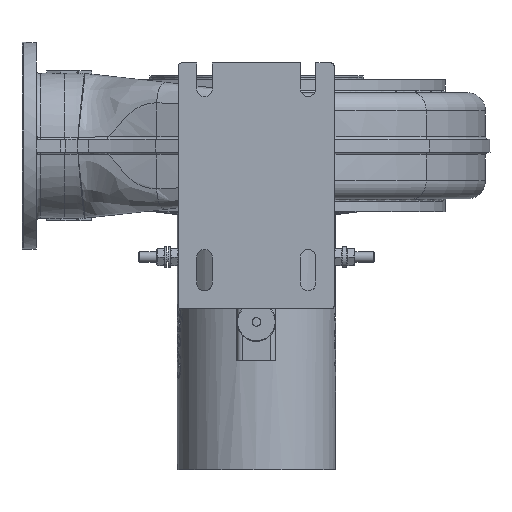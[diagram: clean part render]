
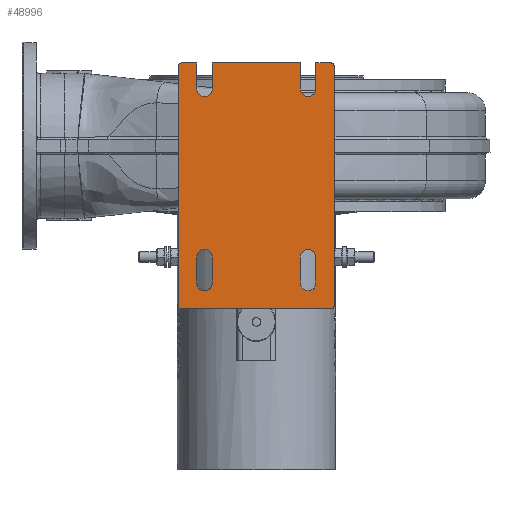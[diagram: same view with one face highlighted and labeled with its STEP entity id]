
A CAD part, front view. The second image highlights one B-rep face of the part: STEP entity #48996.
In plain terms, the highlighted planar face has unit normal (0, -1, 0).
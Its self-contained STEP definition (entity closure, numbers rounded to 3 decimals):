
#393=FACE_BOUND('',#15016,.T.);
#394=FACE_BOUND('',#15017,.T.);
#1204=PLANE('',#51297);
#3243=LINE('',#84286,#7401);
#3248=LINE('',#84300,#7406);
#3253=LINE('',#84318,#7411);
#3257=LINE('',#84329,#7415);
#3262=LINE('',#84347,#7420);
#3267=LINE('',#84363,#7425);
#3273=LINE('',#84378,#7431);
#3293=LINE('',#84479,#7451);
#3295=LINE('',#84484,#7453);
#3302=LINE('',#84514,#7460);
#3314=LINE('',#84562,#7472);
#3315=LINE('',#84568,#7473);
#3316=LINE('',#84571,#7474);
#3317=LINE('',#84574,#7475);
#7401=VECTOR('',#55575,10.);
#7406=VECTOR('',#55588,10.);
#7411=VECTOR('',#55607,10.);
#7415=VECTOR('',#55619,10.);
#7420=VECTOR('',#55634,10.);
#7425=VECTOR('',#55649,10.);
#7431=VECTOR('',#55661,10.);
#7451=VECTOR('',#55723,10.);
#7453=VECTOR('',#55729,10.);
#7460=VECTOR('',#55756,10.);
#7472=VECTOR('',#55786,10.);
#7473=VECTOR('',#55791,10.);
#7474=VECTOR('',#55794,10.);
#7475=VECTOR('',#55797,10.);
#12325=FACE_OUTER_BOUND('',#15015,.T.);
#15015=EDGE_LOOP('',(#36093,#36094,#36095,#36096,#36097,#36098,#36099,#36100,
#36101,#36102,#36103,#36104,#36105,#36106,#36107,#36108));
#15016=EDGE_LOOP('',(#36109,#36110,#36111,#36112));
#15017=EDGE_LOOP('',(#36113,#36114,#36115,#36116));
#17553=CIRCLE('',#51228,6.);
#17554=CIRCLE('',#51232,6.);
#17555=CIRCLE('',#51235,6.);
#17556=CIRCLE('',#51239,6.);
#17557=CIRCLE('',#51244,6.);
#17559=CIRCLE('',#51249,6.);
#17571=CIRCLE('',#51281,2.);
#17575=CIRCLE('',#51298,2.);
#17576=CIRCLE('',#51299,2.);
#17577=CIRCLE('',#51300,2.);
#21450=VERTEX_POINT('',#84284);
#21451=VERTEX_POINT('',#84285);
#21454=VERTEX_POINT('',#84293);
#21456=VERTEX_POINT('',#84299);
#21458=VERTEX_POINT('',#84308);
#21459=VERTEX_POINT('',#84309);
#21462=VERTEX_POINT('',#84317);
#21464=VERTEX_POINT('',#84323);
#21468=VERTEX_POINT('',#84335);
#21469=VERTEX_POINT('',#84337);
#21472=VERTEX_POINT('',#84344);
#21473=VERTEX_POINT('',#84346);
#21476=VERTEX_POINT('',#84354);
#21479=VERTEX_POINT('',#84362);
#21485=VERTEX_POINT('',#84376);
#21512=VERTEX_POINT('',#84476);
#21513=VERTEX_POINT('',#84478);
#21516=VERTEX_POINT('',#84491);
#21530=VERTEX_POINT('',#84559);
#21531=VERTEX_POINT('',#84564);
#21532=VERTEX_POINT('',#84565);
#21533=VERTEX_POINT('',#84567);
#21534=VERTEX_POINT('',#84570);
#21535=VERTEX_POINT('',#84572);
#26744=EDGE_CURVE('',#21450,#21451,#3243,.T.);
#26748=EDGE_CURVE('',#21454,#21450,#17553,.T.);
#26751=EDGE_CURVE('',#21456,#21454,#3248,.T.);
#26754=EDGE_CURVE('',#21451,#21456,#17554,.T.);
#26756=EDGE_CURVE('',#21458,#21459,#17555,.T.);
#26760=EDGE_CURVE('',#21462,#21458,#3253,.T.);
#26763=EDGE_CURVE('',#21464,#21462,#17556,.T.);
#26766=EDGE_CURVE('',#21459,#21464,#3257,.T.);
#26770=EDGE_CURVE('',#21468,#21469,#17557,.T.);
#26774=EDGE_CURVE('',#21472,#21473,#3262,.T.);
#26778=EDGE_CURVE('',#21473,#21476,#17559,.T.);
#26782=EDGE_CURVE('',#21476,#21479,#3267,.T.);
#26790=EDGE_CURVE('',#21485,#21472,#3273,.T.);
#26824=EDGE_CURVE('',#21512,#21513,#3293,.T.);
#26827=EDGE_CURVE('',#21513,#21468,#3295,.T.);
#26831=EDGE_CURVE('',#21516,#21512,#17571,.T.);
#26840=EDGE_CURVE('',#21469,#21485,#3302,.T.);
#26857=EDGE_CURVE('',#21479,#21530,#3314,.T.);
#26858=EDGE_CURVE('',#21531,#21532,#17575,.T.);
#26859=EDGE_CURVE('',#21533,#21531,#3315,.T.);
#26860=EDGE_CURVE('',#21530,#21533,#17576,.T.);
#26861=EDGE_CURVE('',#21534,#21516,#3316,.T.);
#26862=EDGE_CURVE('',#21535,#21534,#17577,.T.);
#26863=EDGE_CURVE('',#21532,#21535,#3317,.T.);
#36093=ORIENTED_EDGE('',*,*,#26858,.F.);
#36094=ORIENTED_EDGE('',*,*,#26859,.F.);
#36095=ORIENTED_EDGE('',*,*,#26860,.F.);
#36096=ORIENTED_EDGE('',*,*,#26857,.F.);
#36097=ORIENTED_EDGE('',*,*,#26782,.F.);
#36098=ORIENTED_EDGE('',*,*,#26778,.F.);
#36099=ORIENTED_EDGE('',*,*,#26774,.F.);
#36100=ORIENTED_EDGE('',*,*,#26790,.F.);
#36101=ORIENTED_EDGE('',*,*,#26840,.F.);
#36102=ORIENTED_EDGE('',*,*,#26770,.F.);
#36103=ORIENTED_EDGE('',*,*,#26827,.F.);
#36104=ORIENTED_EDGE('',*,*,#26824,.F.);
#36105=ORIENTED_EDGE('',*,*,#26831,.F.);
#36106=ORIENTED_EDGE('',*,*,#26861,.F.);
#36107=ORIENTED_EDGE('',*,*,#26862,.F.);
#36108=ORIENTED_EDGE('',*,*,#26863,.F.);
#36109=ORIENTED_EDGE('',*,*,#26756,.T.);
#36110=ORIENTED_EDGE('',*,*,#26766,.T.);
#36111=ORIENTED_EDGE('',*,*,#26763,.T.);
#36112=ORIENTED_EDGE('',*,*,#26760,.T.);
#36113=ORIENTED_EDGE('',*,*,#26744,.T.);
#36114=ORIENTED_EDGE('',*,*,#26754,.T.);
#36115=ORIENTED_EDGE('',*,*,#26751,.T.);
#36116=ORIENTED_EDGE('',*,*,#26748,.T.);
#48996=ADVANCED_FACE('',(#12325,#393,#394),#1204,.F.);
#51228=AXIS2_PLACEMENT_3D('',#84294,#55581,#55582);
#51232=AXIS2_PLACEMENT_3D('',#84305,#55593,#55594);
#51235=AXIS2_PLACEMENT_3D('',#84310,#55599,#55600);
#51239=AXIS2_PLACEMENT_3D('',#84324,#55612,#55613);
#51244=AXIS2_PLACEMENT_3D('',#84338,#55626,#55627);
#51249=AXIS2_PLACEMENT_3D('',#84355,#55641,#55642);
#51281=AXIS2_PLACEMENT_3D('',#84492,#55738,#55739);
#51297=AXIS2_PLACEMENT_3D('',#84563,#55787,#55788);
#51298=AXIS2_PLACEMENT_3D('',#84566,#55789,#55790);
#51299=AXIS2_PLACEMENT_3D('',#84569,#55792,#55793);
#51300=AXIS2_PLACEMENT_3D('',#84573,#55795,#55796);
#55575=DIRECTION('',(0.,0.,-1.));
#55581=DIRECTION('center_axis',(0.,1.,0.));
#55582=DIRECTION('ref_axis',(-1.,0.,0.));
#55588=DIRECTION('',(0.,0.,1.));
#55593=DIRECTION('center_axis',(0.,1.,0.));
#55594=DIRECTION('ref_axis',(1.,0.,0.));
#55599=DIRECTION('center_axis',(0.,1.,0.));
#55600=DIRECTION('ref_axis',(1.,0.,0.));
#55607=DIRECTION('',(0.,0.,-1.));
#55612=DIRECTION('center_axis',(0.,1.,0.));
#55613=DIRECTION('ref_axis',(-1.,0.,0.));
#55619=DIRECTION('',(0.,0.,1.));
#55626=DIRECTION('center_axis',(0.,-1.,0.));
#55627=DIRECTION('ref_axis',(1.,0.,0.));
#55634=DIRECTION('',(0.,0.,-1.));
#55641=DIRECTION('center_axis',(0.,-1.,0.));
#55642=DIRECTION('ref_axis',(1.,0.,0.));
#55649=DIRECTION('',(0.,0.,1.));
#55661=DIRECTION('',(1.,0.,0.));
#55723=DIRECTION('',(1.,0.,0.));
#55729=DIRECTION('',(0.,0.,-1.));
#55738=DIRECTION('center_axis',(0.,1.,0.));
#55739=DIRECTION('ref_axis',(-0.707,0.,0.707));
#55756=DIRECTION('',(0.,0.,1.));
#55786=DIRECTION('',(1.,0.,0.));
#55787=DIRECTION('center_axis',(0.,1.,0.));
#55788=DIRECTION('ref_axis',(0.,0.,1.));
#55789=DIRECTION('center_axis',(0.,1.,0.));
#55790=DIRECTION('ref_axis',(0.707,0.,-0.707));
#55791=DIRECTION('',(0.,0.,-1.));
#55792=DIRECTION('center_axis',(0.,1.,0.));
#55793=DIRECTION('ref_axis',(0.707,0.,0.707));
#55794=DIRECTION('',(0.,0.,1.));
#55795=DIRECTION('center_axis',(0.,1.,0.));
#55796=DIRECTION('ref_axis',(-0.707,0.,-0.707));
#55797=DIRECTION('',(-1.,0.,0.));
#84284=CARTESIAN_POINT('',(-57.73,-117.939,-17.));
#84285=CARTESIAN_POINT('',(-57.73,-117.939,-37.));
#84286=CARTESIAN_POINT('',(-57.73,-117.939,15.556));
#84293=CARTESIAN_POINT('',(-69.73,-117.939,-17.));
#84294=CARTESIAN_POINT('Origin',(-63.73,-117.939,-17.));
#84299=CARTESIAN_POINT('',(-69.73,-117.939,-37.));
#84300=CARTESIAN_POINT('',(-69.73,-117.939,5.556));
#84305=CARTESIAN_POINT('Origin',(-63.73,-117.939,-37.));
#84308=CARTESIAN_POINT('',(22.27,-117.939,-37.));
#84309=CARTESIAN_POINT('',(10.27,-117.939,-37.));
#84310=CARTESIAN_POINT('Origin',(16.27,-117.939,-37.));
#84317=CARTESIAN_POINT('',(22.27,-117.939,-17.));
#84318=CARTESIAN_POINT('',(22.27,-117.939,15.556));
#84323=CARTESIAN_POINT('',(10.27,-117.939,-17.));
#84324=CARTESIAN_POINT('Origin',(16.27,-117.939,-17.));
#84329=CARTESIAN_POINT('',(10.27,-117.939,5.556));
#84335=CARTESIAN_POINT('',(-69.73,-117.939,113.));
#84337=CARTESIAN_POINT('',(-57.73,-117.939,113.));
#84338=CARTESIAN_POINT('Origin',(-63.73,-117.939,113.));
#84344=CARTESIAN_POINT('',(10.27,-117.939,133.));
#84346=CARTESIAN_POINT('',(10.27,-117.939,113.));
#84347=CARTESIAN_POINT('',(10.27,-117.939,113.));
#84354=CARTESIAN_POINT('',(22.27,-117.939,113.));
#84355=CARTESIAN_POINT('Origin',(16.27,-117.939,113.));
#84362=CARTESIAN_POINT('',(22.27,-117.939,133.));
#84363=CARTESIAN_POINT('',(22.27,-117.939,133.));
#84376=CARTESIAN_POINT('',(-57.73,-117.939,133.));
#84378=CARTESIAN_POINT('',(10.27,-117.939,133.));
#84476=CARTESIAN_POINT('',(-81.73,-117.939,133.));
#84478=CARTESIAN_POINT('',(-69.73,-117.939,133.));
#84479=CARTESIAN_POINT('',(-69.73,-117.939,133.));
#84484=CARTESIAN_POINT('',(-69.73,-117.939,113.));
#84491=CARTESIAN_POINT('',(-83.73,-117.939,131.));
#84492=CARTESIAN_POINT('Origin',(-81.73,-117.939,131.));
#84514=CARTESIAN_POINT('',(-57.73,-117.939,133.));
#84559=CARTESIAN_POINT('',(34.27,-117.939,133.));
#84562=CARTESIAN_POINT('',(36.27,-117.939,133.));
#84563=CARTESIAN_POINT('Origin',(-23.73,-117.939,48.113));
#84564=CARTESIAN_POINT('',(36.27,-117.939,-55.));
#84565=CARTESIAN_POINT('',(34.27,-117.939,-57.));
#84566=CARTESIAN_POINT('Origin',(34.27,-117.939,-55.));
#84567=CARTESIAN_POINT('',(36.27,-117.939,131.));
#84568=CARTESIAN_POINT('',(36.27,-117.939,-57.));
#84569=CARTESIAN_POINT('Origin',(34.27,-117.939,131.));
#84570=CARTESIAN_POINT('',(-83.73,-117.939,-55.));
#84571=CARTESIAN_POINT('',(-83.73,-117.939,133.));
#84572=CARTESIAN_POINT('',(-81.73,-117.939,-57.));
#84573=CARTESIAN_POINT('Origin',(-81.73,-117.939,-55.));
#84574=CARTESIAN_POINT('',(-83.73,-117.939,-57.));
